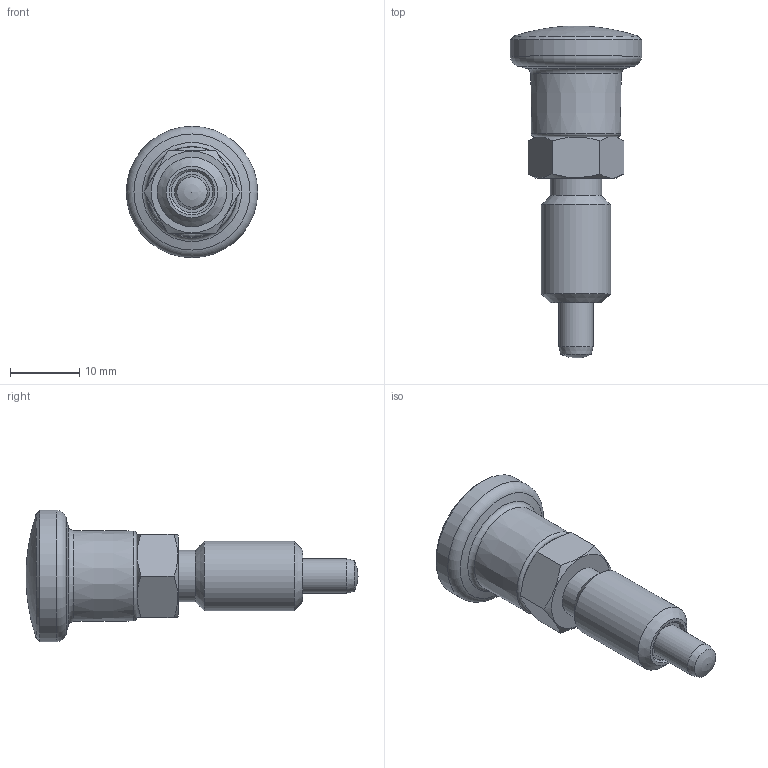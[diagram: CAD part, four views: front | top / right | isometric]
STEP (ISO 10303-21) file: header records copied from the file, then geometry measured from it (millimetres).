
FILE_DESCRIPTION( ( 'STEP AP203' ), '1' );
FILE_NAME( 'C:/Temp/Ganter_Step_05_03_2020/data/3_1/gn817/gn817_ni-rastbolzen_rot/Stainless steel-Indexing plunger GN 817-5-8-B-NI-RT (deactivated).stp', '2020-03-12T09:00:14', ( 'License CC BY-ND 4.0' ), ( 'CADENAS' ), ' ', 'PARTsolutions', ' ' );
FILE_SCHEMA( ( 'CONFIG_CONTROL_DESIGN' ) );
Length unit declared in the file: millimetre
Products named in the file (4): Stainless steel-Indexing plunger GN 817-5-8-B-NI-RT (deactivated); _Stainless steel-Indexing plunger GN 817-5-8-B-NI-RT (deactivated)-d; _Stainless steel-Indexing plunger GN 817-5-8-B-NI-RT-2; _Stainless Steel Indexing plunger GN 817-5-8-B-NI-RT-1
Assembly tree (3 placements, depth 2):
  Stainless steel-Indexing plunger GN 817-5-8-B-NI-RT (deactivated)
    _Stainless steel-Indexing plunger GN 817-5-8-B-NI-RT (deactivated)-d
    _Stainless steel-Indexing plunger GN 817-5-8-B-NI-RT-2
    _Stainless Steel Indexing plunger GN 817-5-8-B-NI-RT-1
Bounding box: 19 x 48 x 19 mm (x, y, z)
Volume: 4813.1 mm3; surface area: 3125.3 mm2
Topology: 2 solids, 2 shells, 38 faces, 78 edges, 48 vertices
Faces by surface type: plane 13, cone 10, cylinder 8, torus 5, bspline 1, sphere 1
Full cylindrical faces by diameter (mm): 4 x2, 5 x1, 6 x2, 7.4 x1, 10 x1, 19 x1
Entity records: 1082 total; most frequent: CARTESIAN_POINT 270, DIRECTION 148, ORIENTED_EDGE 96, AXIS2_PLACEMENT_3D 71, EDGE_LOOP 68, FACE_OUTER_BOUND 51, EDGE_CURVE 48, VERTEX_POINT 44
